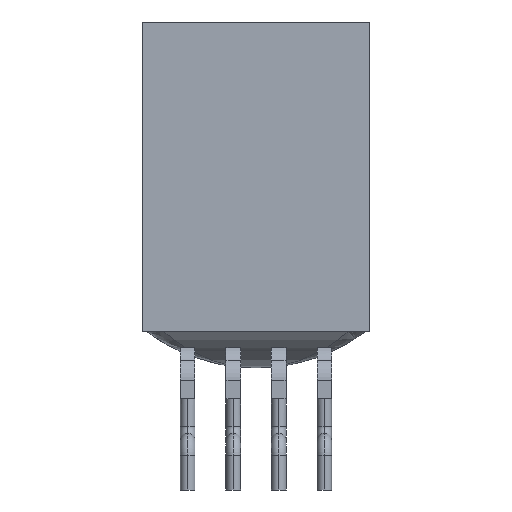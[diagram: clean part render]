
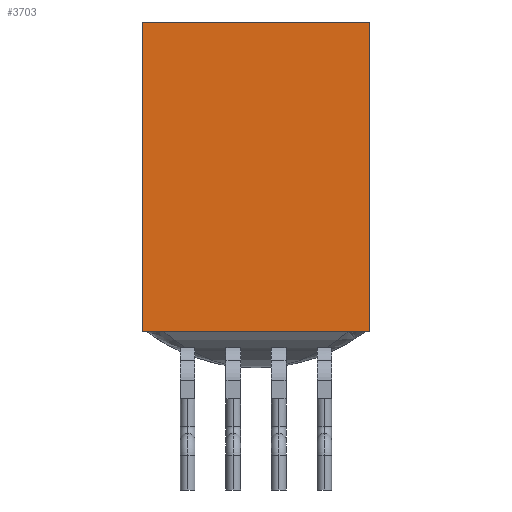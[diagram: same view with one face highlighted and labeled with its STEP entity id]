
A CAD part, front view. The second image highlights one B-rep face of the part: STEP entity #3703.
In plain terms, the highlighted planar face has unit normal (0, -1, 0).
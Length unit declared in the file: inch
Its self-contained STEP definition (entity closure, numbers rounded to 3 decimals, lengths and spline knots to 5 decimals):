
#60 = VECTOR ( 'NONE', #284, 39.37008 ) ;
#62 = FACE_OUTER_BOUND ( 'NONE', #3927, .T. ) ;
#207 = PLANE ( 'NONE',  #3758 ) ;
#220 = DIRECTION ( 'NONE',  ( 0., 1., 0. ) ) ;
#224 = ORIENTED_EDGE ( 'NONE', *, *, #3769, .F. ) ;
#275 = CARTESIAN_POINT ( 'NONE',  ( 0.0625, 0., 0. ) ) ;
#284 = DIRECTION ( 'NONE',  ( -1., 0., 0. ) ) ;
#732 = LINE ( 'NONE', #275, #2444 ) ;
#758 = VERTEX_POINT ( 'NONE', #3344 ) ;
#922 = VERTEX_POINT ( 'NONE', #1734 ) ;
#967 = LINE ( 'NONE', #4198, #60 ) ;
#970 = VECTOR ( 'NONE', #4116, 39.37008 ) ;
#1242 = CARTESIAN_POINT ( 'NONE',  ( 0.0625, 0., 0. ) ) ;
#1734 = CARTESIAN_POINT ( 'NONE',  ( -0.0625, 0., 0.17 ) ) ;
#1822 = ORIENTED_EDGE ( 'NONE', *, *, #3681, .T. ) ;
#2024 = CARTESIAN_POINT ( 'NONE',  ( 0.0625, 0., 0. ) ) ;
#2152 = VECTOR ( 'NONE', #2753, 39.37008 ) ;
#2444 = VECTOR ( 'NONE', #2635, 39.37008 ) ;
#2470 = VERTEX_POINT ( 'NONE', #2900 ) ;
#2488 = ORIENTED_EDGE ( 'NONE', *, *, #3914, .T. ) ;
#2563 = CARTESIAN_POINT ( 'NONE',  ( 0.0625, 0., 0.17 ) ) ;
#2577 = DIRECTION ( 'NONE',  ( 0., 0., 1. ) ) ;
#2635 = DIRECTION ( 'NONE',  ( 0., 0., -1. ) ) ;
#2753 = DIRECTION ( 'NONE',  ( 0., 0., -1. ) ) ;
#2900 = CARTESIAN_POINT ( 'NONE',  ( -0.0625, 0., 0. ) ) ;
#2986 = LINE ( 'NONE', #3665, #2152 ) ;
#3275 = ORIENTED_EDGE ( 'NONE', *, *, #4238, .F. ) ;
#3320 = VERTEX_POINT ( 'NONE', #2024 ) ;
#3344 = CARTESIAN_POINT ( 'NONE',  ( 0.0625, 0., 0.17 ) ) ;
#3564 = LINE ( 'NONE', #2563, #970 ) ;
#3665 = CARTESIAN_POINT ( 'NONE',  ( -0.0625, 0., 0. ) ) ;
#3681 = EDGE_CURVE ( 'NONE', #758, #922, #3564, .T. ) ;
#3703 = ADVANCED_FACE ( 'NONE', ( #62 ), #207, .F. ) ;
#3758 = AXIS2_PLACEMENT_3D ( 'NONE', #1242, #220, #2577 ) ;
#3769 = EDGE_CURVE ( 'NONE', #758, #3320, #732, .T. ) ;
#3914 = EDGE_CURVE ( 'NONE', #922, #2470, #2986, .T. ) ;
#3927 = EDGE_LOOP ( 'NONE', ( #2488, #3275, #224, #1822 ) ) ;
#4116 = DIRECTION ( 'NONE',  ( -1., 0., 0. ) ) ;
#4198 = CARTESIAN_POINT ( 'NONE',  ( 0.0625, 0., 0. ) ) ;
#4238 = EDGE_CURVE ( 'NONE', #3320, #2470, #967, .T. ) ;
